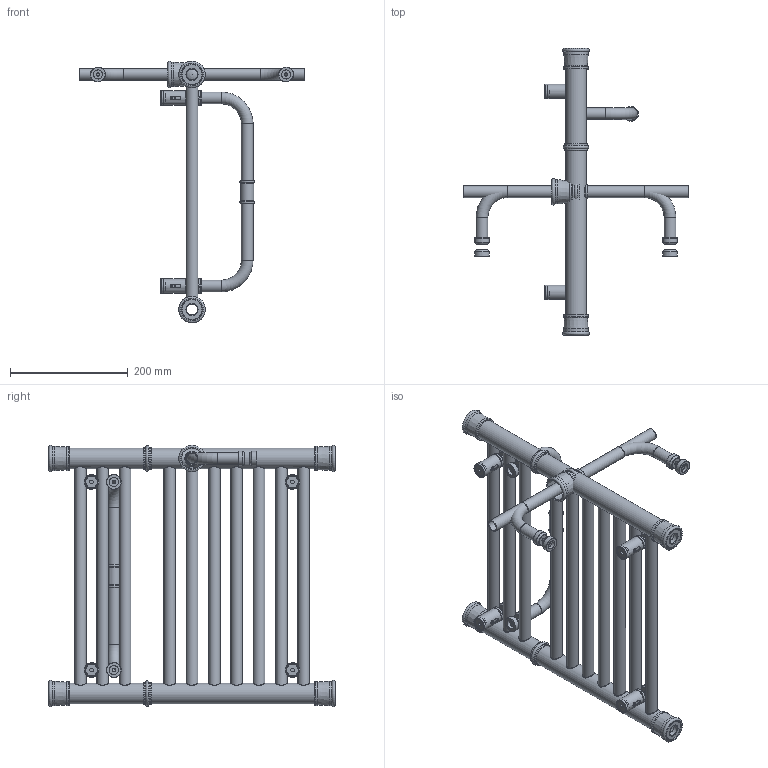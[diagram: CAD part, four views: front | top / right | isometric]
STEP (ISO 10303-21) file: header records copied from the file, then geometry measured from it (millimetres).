
FILE_DESCRIPTION( ( 'Unknown' ), '1' );
FILE_NAME( 'D:/Alplast sp. j/Witryna zespoBu - Projekty/Archiwum/Grzejniki Archiwum/Projekty/DESIGN PROGRAM/RETRO/Zlozenie Retro A1-400.stp', 'Unknown', ( 'Unknown' ), ( 'Unknown' ), 'PSStep 10.1', 'Unknown', ' ' );
FILE_SCHEMA( ( 'AUTOMOTIVE_DESIGN { 1 0 10303 214 1 1 1 1 }' ) );
Length unit declared in the file: millimetre
Products named in the file (40): suszarka Retro 400; mocowanie do œciany; Assem1; katurek z wkrêtem do mocowania do  sciany; Katurek fi 25 v4 ; wkrêt do katurka fi 25 v4; detal-v3. par; element do suszarki do mocowania; element do suszarki do mocowania-oa0; tulejka do suszarki ; tulejka do suszarki -oa1; element do suszarki do mocowania ty³; element do suszarki do mocowania ty³-oa2; suszarka 400; tulejka do mocowania grzejnika v3; mocowanie do grzejnika v3; zaœlepka do mocowania do œciany; Kana³ Prosty Retro 400; Kana³ Prosty Retro 400-oa3; Kana³ Prosty Retro 400-oa4; Kana³ Prosty Retro 400-oa5; Kana³ Prosty Retro 400-oa6; Kana³ Prosty Retro 400-oa7; Kana³ Prosty Retro 400-oa8; Kana³ Prosty Retro 400-oa9; Kana³ Prosty Retro 400-oa10; Kana³ Prosty Retro 400-oa11; Kana³ Prosty Retro 400-oa12; pierœcieñ na rurê fi 36 w¹ski; pierœcieñ na rurê fi 36 w¹ski-oa13; pierœcieñ ozdobny 1; pierœcieñ ozdobny 1-oa14; pierœcieñ ozdobny 1-oa15; pierœcieñ ozdobny 1-oa16; Zaslepka fi 35 z gwintem ; Zaslepka fi 35 z gwintem -oa17; Zaslepka fi 35 z gwintem -oa18; Zaslepka fi 35 z gwintem -oa19; kolektor Retro A1; kolektor Retro A1-oa20
Bounding box: 384 x 488 x 445 mm (x, y, z)
Volume: 1282124.8 mm3; surface area: 1792018.2 mm2
Topology: 102 solids, 102 shells, 884 faces, 1776 edges, 1130 vertices
Faces by surface type: cylinder 338, plane 262, torus 189, cone 76, bspline 12, sphere 7
Full cylindrical faces by diameter (mm): 4.917 x24, 5.9 x6, 6 x27, 6.3 x6, 6.4 x6, 15.5 x6, 17.5 x6, 17.6 x31, 18.631 x8, 20 x31, 20.3 x3, 20.5 x40, 20.6 x6, 21.15 x6, 21.9 x18, 22.8 x3, 24.5 x6, 25 x21, 25.25 x6, 25.3 x6, 32 x8, 32.4 x4, 35 x12, 35.3 x4, 35.5 x8, 39 x8, 41.15 x16
Entity records: 13554 total; most frequent: CARTESIAN_POINT 5102, DIRECTION 1234, ORIENTED_EDGE 654, EDGE_LOOP 636, AXIS2_PLACEMENT_3D 613, FACE_OUTER_BOUND 485, EDGE_CURVE 327, VERTEX_POINT 324
